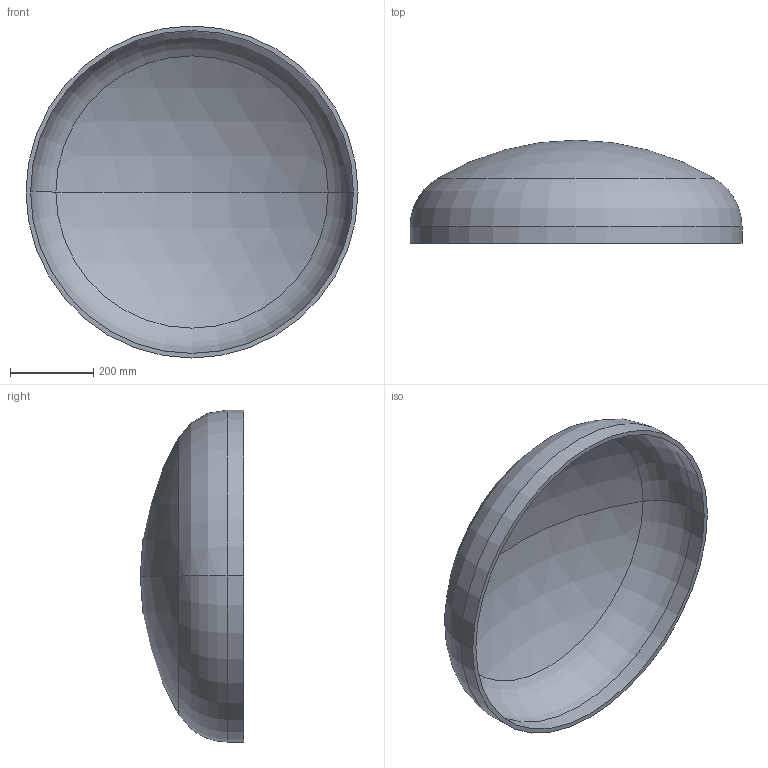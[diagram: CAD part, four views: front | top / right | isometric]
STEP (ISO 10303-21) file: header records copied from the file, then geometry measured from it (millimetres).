
FILE_DESCRIPTION (( 'STEP AP203' ), '1' );
FILE_NAME ('DIN 28013 Korbbogenform_-_Boden DIN 28013 - 800 x 40 - I - s=11.step', '2016-07-01T08:12:33', ( '' ), ( '' ), 'SwSTEP 2.0', 'SolidWorks 2013', '' );
FILE_SCHEMA (( 'CONFIG_CONTROL_DESIGN' ));
Length unit declared in the file: millimetre
Products named in the file (1): DIN 28013 Korbbogenform_-_Boden DIN 28013 - 800 x 40 - I - s=11
Bounding box: 800 x 248.81 x 800 mm (x, y, z)
Volume: 8632279.5 mm3; surface area: 1597024.1 mm2
Topology: 1 solids, 1 shells, 13 faces, 24 edges, 14 vertices
Faces by surface type: torus 4, cylinder 4, sphere 4, plane 1
Entity records: 407 total; most frequent: DIRECTION 72, CARTESIAN_POINT 52, ORIENTED_EDGE 48, AXIS2_PLACEMENT_3D 34, EDGE_CURVE 24, CIRCLE 20, EDGE_LOOP 14, VERTEX_POINT 14
